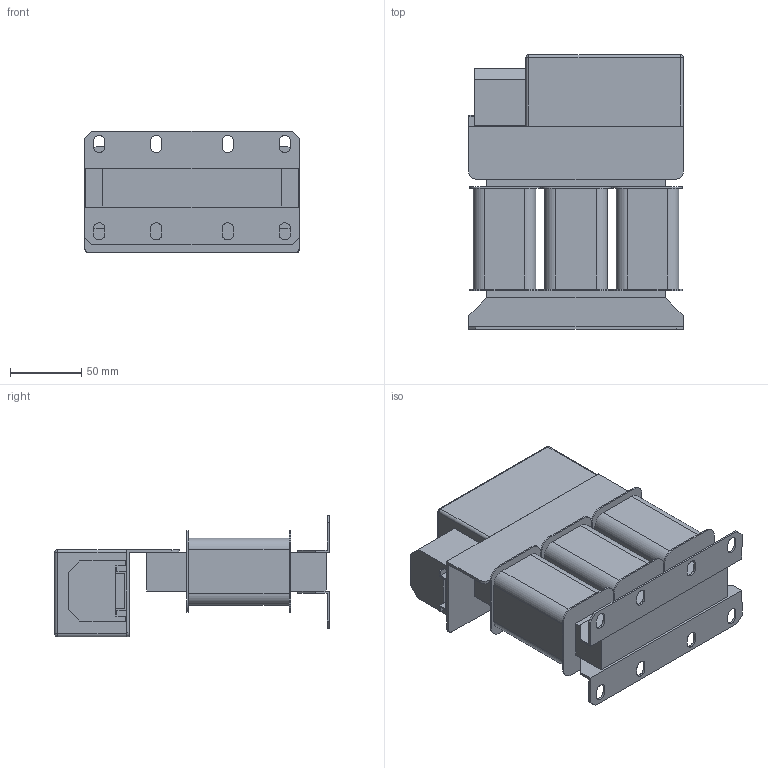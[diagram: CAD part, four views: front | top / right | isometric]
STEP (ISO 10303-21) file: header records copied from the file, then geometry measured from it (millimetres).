
FILE_DESCRIPTION(/* description */ (''),/* implementation_level */ '2;1');
FILE_NAME(/* name */ 'Sin-T4-004.stp',/* time_stamp */ '2025-03-10T15:20:07+04:00',/* author */ ('Лео'),/* organization */ (''),/* preprocessor_version */ 'ST-DEVELOPER v19.2',/* originating_system */ 'Autodesk Inventor 2024',/* authorisation */ '');
FILE_SCHEMA (('AUTOMOTIVE_DESIGN { 1 0 10303 214 3 1 1 }'));
Length unit declared in the file: millimetre
Products named in the file (1): Sin-T4-004
Bounding box: 150 x 192 x 85 mm (x, y, z)
Volume: 1055546.9 mm3; surface area: 201990.4 mm2
Topology: 14 solids, 14 shells, 212 faces, 534 edges, 350 vertices
Faces by surface type: plane 144, cylinder 64, sphere 4
Entity records: 6384 total; most frequent: CARTESIAN_POINT 1097, DIRECTION 1088, ORIENTED_EDGE 1068, EDGE_CURVE 534, LINE 406, VECTOR 406, VERTEX_POINT 350, AXIS2_PLACEMENT_3D 341
